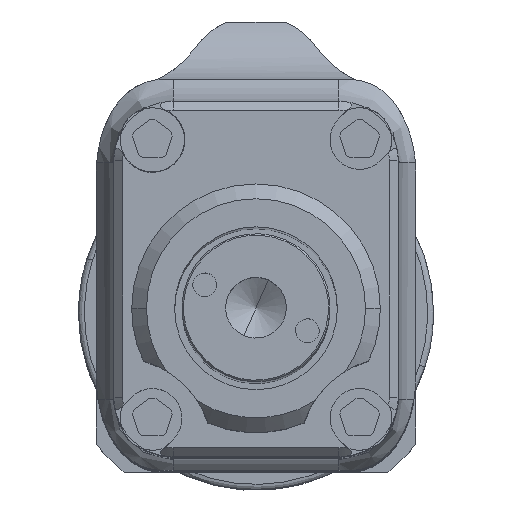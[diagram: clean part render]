
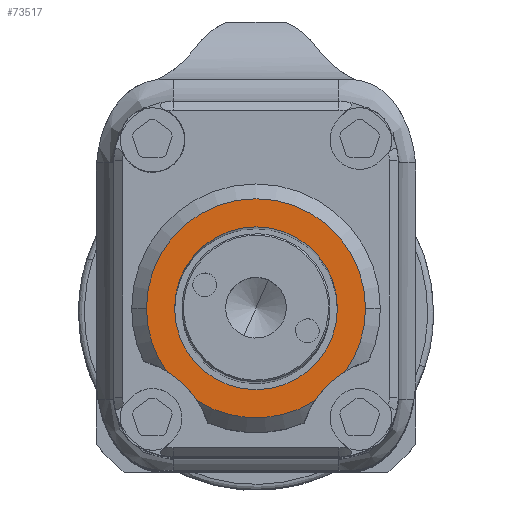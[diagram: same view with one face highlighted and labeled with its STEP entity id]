
A CAD part, top view. The second image highlights one B-rep face of the part: STEP entity #73517.
In plain terms, the highlighted planar face has unit normal (0, 0, 1) as drawn and (0, 0, -1) by its records, which use the part's own axes.
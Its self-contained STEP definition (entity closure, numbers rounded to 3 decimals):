
#106 = DIRECTION ( 'NONE',  ( 0., 0., -1. ) ) ;
#505 = CARTESIAN_POINT ( 'NONE',  ( 2.75, 0.2, -3.5 ) ) ;
#698 = CARTESIAN_POINT ( 'NONE',  ( 4.667, -4.667, -3.5 ) ) ;
#2605 = ORIENTED_EDGE ( 'NONE', *, *, #25370, .T. ) ;
#3019 = DIRECTION ( 'NONE',  ( 0., 0., -1. ) ) ;
#3648 = AXIS2_PLACEMENT_3D ( 'NONE', #698, #65830, #24751 ) ;
#3814 = EDGE_CURVE ( 'NONE', #49136, #64691, #44448, .T. ) ;
#4027 = VERTEX_POINT ( 'NONE', #16580 ) ;
#4638 = VERTEX_POINT ( 'NONE', #13585 ) ;
#6208 = FACE_OUTER_BOUND ( 'NONE', #58441, .T. ) ;
#6441 = DIRECTION ( 'NONE',  ( 1., 0., 0. ) ) ;
#6499 = EDGE_CURVE ( 'NONE', #31536, #4027, #57929, .T. ) ;
#7069 = PLANE ( 'NONE',  #36377 ) ;
#8618 = AXIS2_PLACEMENT_3D ( 'NONE', #15950, #27571, #38969 ) ;
#10385 = EDGE_CURVE ( 'NONE', #4638, #31536, #60096, .T. ) ;
#13585 = CARTESIAN_POINT ( 'NONE',  ( -3.7, 0.2, -3.5 ) ) ;
#15452 = CARTESIAN_POINT ( 'NONE',  ( 3.7, 0.2, -3.5 ) ) ;
#15950 = CARTESIAN_POINT ( 'NONE',  ( 0., 0.2, -3.5 ) ) ;
#16580 = CARTESIAN_POINT ( 'NONE',  ( 3.038, -1.912, -3.5 ) ) ;
#16970 = CARTESIAN_POINT ( 'NONE',  ( -4.667, -4.667, -3.5 ) ) ;
#17389 = AXIS2_PLACEMENT_3D ( 'NONE', #62873, #75437, #51644 ) ;
#17903 = VERTEX_POINT ( 'NONE', #32751 ) ;
#18996 = AXIS2_PLACEMENT_3D ( 'NONE', #29329, #41217, #53306 ) ;
#19607 = AXIS2_PLACEMENT_3D ( 'NONE', #52957, #29480, #6441 ) ;
#24564 = CIRCLE ( 'NONE', #8618, 2.75 ) ;
#24683 = FACE_BOUND ( 'NONE', #70151, .T. ) ;
#24751 = DIRECTION ( 'NONE',  ( -1., 0., 0. ) ) ;
#25370 = EDGE_CURVE ( 'NONE', #45393, #17903, #67971, .T. ) ;
#26318 = CARTESIAN_POINT ( 'NONE',  ( 0., 0.2, -3.5 ) ) ;
#26488 = CARTESIAN_POINT ( 'NONE',  ( -2.75, 0.2, -3.5 ) ) ;
#27571 = DIRECTION ( 'NONE',  ( 0., 0., 1. ) ) ;
#27742 = ORIENTED_EDGE ( 'NONE', *, *, #6499, .T. ) ;
#28693 = CARTESIAN_POINT ( 'NONE',  ( -1.983, -2.924, -3.5 ) ) ;
#29329 = CARTESIAN_POINT ( 'NONE',  ( 0., 0.2, -3.5 ) ) ;
#29480 = DIRECTION ( 'NONE',  ( 0., 0., -1. ) ) ;
#30210 = ORIENTED_EDGE ( 'NONE', *, *, #3814, .T. ) ;
#30936 = ORIENTED_EDGE ( 'NONE', *, *, #65577, .T. ) ;
#31536 = VERTEX_POINT ( 'NONE', #15452 ) ;
#32354 = CIRCLE ( 'NONE', #48933, 3.7 ) ;
#32751 = CARTESIAN_POINT ( 'NONE',  ( -3.038, -1.912, -3.5 ) ) ;
#36377 = AXIS2_PLACEMENT_3D ( 'NONE', #47605, #106, #53322 ) ;
#37588 = ORIENTED_EDGE ( 'NONE', *, *, #65897, .T. ) ;
#38969 = DIRECTION ( 'NONE',  ( 1., 0., 0. ) ) ;
#39400 = CIRCLE ( 'NONE', #3648, 3.2 ) ;
#40786 = EDGE_CURVE ( 'NONE', #17903, #4638, #32354, .T. ) ;
#41217 = DIRECTION ( 'NONE',  ( 0., 0., -1. ) ) ;
#41846 = ORIENTED_EDGE ( 'NONE', *, *, #40786, .T. ) ;
#44133 = AXIS2_PLACEMENT_3D ( 'NONE', #26318, #3019, #44618 ) ;
#44448 = CIRCLE ( 'NONE', #17389, 2.75 ) ;
#44618 = DIRECTION ( 'NONE',  ( 1., 0., 0. ) ) ;
#45122 = AXIS2_PLACEMENT_3D ( 'NONE', #16970, #58306, #46613 ) ;
#45393 = VERTEX_POINT ( 'NONE', #28693 ) ;
#46613 = DIRECTION ( 'NONE',  ( -1., 0., 0. ) ) ;
#47605 = CARTESIAN_POINT ( 'NONE',  ( 0., 0.2, -3.5 ) ) ;
#48850 = CIRCLE ( 'NONE', #18996, 3.7 ) ;
#48933 = AXIS2_PLACEMENT_3D ( 'NONE', #54442, #66332, #60695 ) ;
#49136 = VERTEX_POINT ( 'NONE', #505 ) ;
#50010 = VERTEX_POINT ( 'NONE', #55430 ) ;
#51644 = DIRECTION ( 'NONE',  ( 1., 0., 0. ) ) ;
#52957 = CARTESIAN_POINT ( 'NONE',  ( 0., 0.2, -3.5 ) ) ;
#53306 = DIRECTION ( 'NONE',  ( 1., 0., 0. ) ) ;
#53322 = DIRECTION ( 'NONE',  ( -1., 0., 0. ) ) ;
#54442 = CARTESIAN_POINT ( 'NONE',  ( 0., 0.2, -3.5 ) ) ;
#55430 = CARTESIAN_POINT ( 'NONE',  ( 1.983, -2.924, -3.5 ) ) ;
#57929 = CIRCLE ( 'NONE', #44133, 3.7 ) ;
#58306 = DIRECTION ( 'NONE',  ( 0., 0., 1. ) ) ;
#58441 = EDGE_LOOP ( 'NONE', ( #2605, #41846, #72709, #27742, #30936, #69340 ) ) ;
#60096 = CIRCLE ( 'NONE', #19607, 3.7 ) ;
#60695 = DIRECTION ( 'NONE',  ( 1., 0., 0. ) ) ;
#62873 = CARTESIAN_POINT ( 'NONE',  ( 0., 0.2, -3.5 ) ) ;
#64691 = VERTEX_POINT ( 'NONE', #26488 ) ;
#65577 = EDGE_CURVE ( 'NONE', #4027, #50010, #39400, .T. ) ;
#65830 = DIRECTION ( 'NONE',  ( 0., 0., 1. ) ) ;
#65897 = EDGE_CURVE ( 'NONE', #64691, #49136, #24564, .T. ) ;
#66332 = DIRECTION ( 'NONE',  ( 0., 0., -1. ) ) ;
#67971 = CIRCLE ( 'NONE', #45122, 3.2 ) ;
#69340 = ORIENTED_EDGE ( 'NONE', *, *, #72073, .T. ) ;
#70151 = EDGE_LOOP ( 'NONE', ( #30210, #37588 ) ) ;
#72073 = EDGE_CURVE ( 'NONE', #50010, #45393, #48850, .T. ) ;
#72709 = ORIENTED_EDGE ( 'NONE', *, *, #10385, .T. ) ;
#73517 = ADVANCED_FACE ( 'NONE', ( #24683, #6208 ), #7069, .T. ) ;
#75437 = DIRECTION ( 'NONE',  ( 0., 0., 1. ) ) ;
